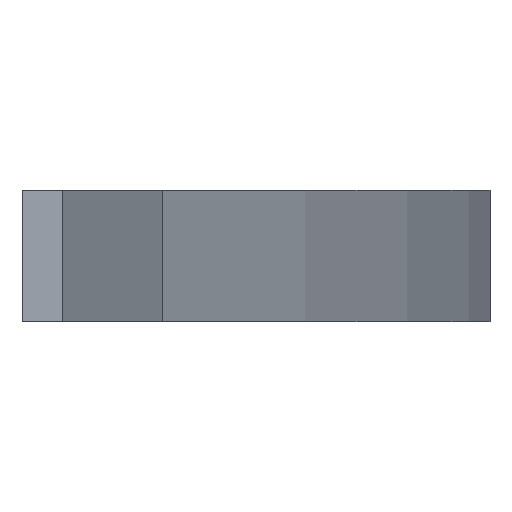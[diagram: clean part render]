
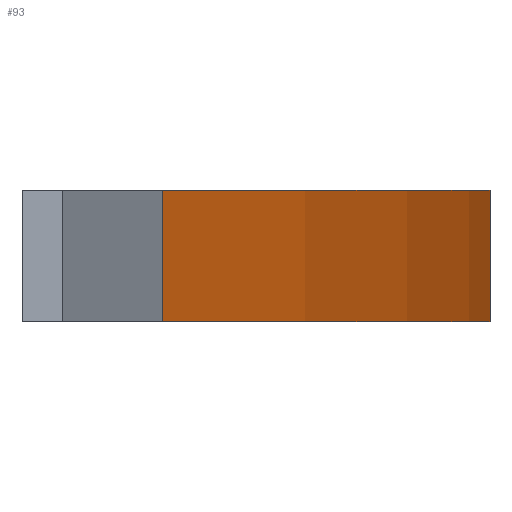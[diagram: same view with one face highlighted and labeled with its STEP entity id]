
A CAD part, left-side view. The second image highlights one B-rep face of the part: STEP entity #93.
In plain terms, the highlighted cylindrical face has radius 230 mm (diameter 460 mm), a partial arc.
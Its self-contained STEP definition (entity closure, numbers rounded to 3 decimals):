
#93 = ADVANCED_FACE( '', ( #134 ), #135, .T. );
#134 = FACE_OUTER_BOUND( '', #176, .T. );
#135 = CYLINDRICAL_SURFACE( '', #177, 230. );
#176 = EDGE_LOOP( '', ( #314, #315, #316, #317 ) );
#177 = AXIS2_PLACEMENT_3D( '', #318, #319, #320 );
#314 = ORIENTED_EDGE( '', *, *, #365, .T. );
#315 = ORIENTED_EDGE( '', *, *, #378, .F. );
#316 = ORIENTED_EDGE( '', *, *, #383, .F. );
#317 = ORIENTED_EDGE( '', *, *, #381, .T. );
#318 = CARTESIAN_POINT( '', ( 80., 205., 3.5 ) );
#319 = DIRECTION( '', ( 0., 0., 1. ) );
#320 = DIRECTION( '', ( -0.383, -0.924, 0. ) );
#365 = EDGE_CURVE( '', #434, #432, #435, .T. );
#378 = EDGE_CURVE( '', #454, #432, #456, .T. );
#381 = EDGE_CURVE( '', #460, #434, #461, .T. );
#383 = EDGE_CURVE( '', #460, #454, #463, .T. );
#432 = VERTEX_POINT( '', #528 );
#434 = VERTEX_POINT( '', #531 );
#435 = CIRCLE( '', #532, 230. );
#454 = VERTEX_POINT( '', #561 );
#456 = LINE( '', #564, #565 );
#460 = VERTEX_POINT( '', #570 );
#461 = LINE( '', #571, #572 );
#463 = CIRCLE( '', #575, 230. );
#528 = CARTESIAN_POINT( '', ( 167.999, -7.5, -3.5 ) );
#531 = CARTESIAN_POINT( '', ( -7.999, -7.5, -3.5 ) );
#532 = AXIS2_PLACEMENT_3D( '', #629, #630, #631 );
#561 = CARTESIAN_POINT( '', ( 167.999, -7.5, 3.5 ) );
#564 = CARTESIAN_POINT( '', ( 167.999, -7.5, 3.5 ) );
#565 = VECTOR( '', #646, 1. );
#570 = CARTESIAN_POINT( '', ( -7.999, -7.5, 3.5 ) );
#571 = CARTESIAN_POINT( '', ( -7.999, -7.5, 3.5 ) );
#572 = VECTOR( '', #651, 1. );
#575 = AXIS2_PLACEMENT_3D( '', #653, #654, #655 );
#629 = CARTESIAN_POINT( '', ( 80., 205., -3.5 ) );
#630 = DIRECTION( '', ( 0., 0., 1. ) );
#631 = DIRECTION( '', ( -0.383, -0.924, 0. ) );
#646 = DIRECTION( '', ( 0., 0., -1. ) );
#651 = DIRECTION( '', ( 0., 0., -1. ) );
#653 = CARTESIAN_POINT( '', ( 80., 205., 3.5 ) );
#654 = DIRECTION( '', ( 0., 0., 1. ) );
#655 = DIRECTION( '', ( -0.383, -0.924, 0. ) );
